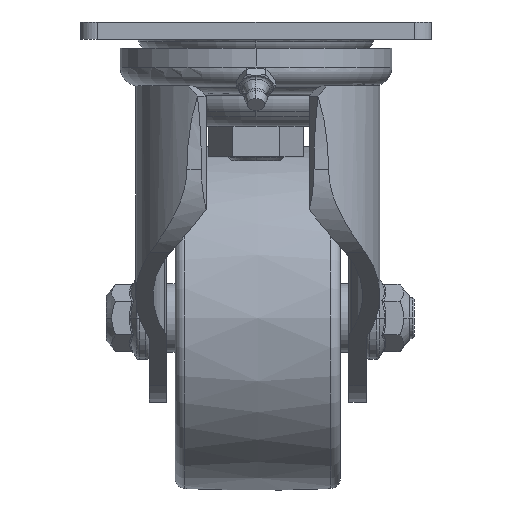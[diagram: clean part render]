
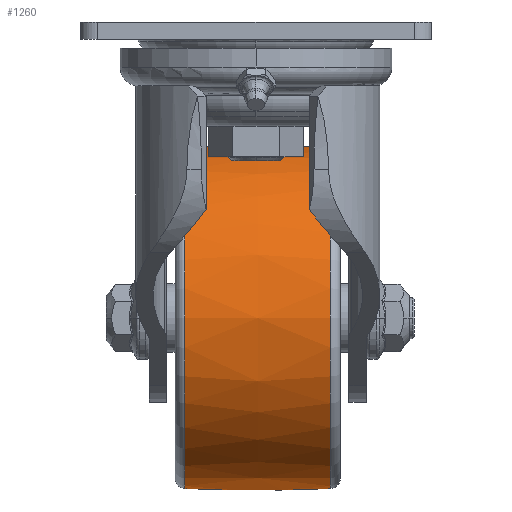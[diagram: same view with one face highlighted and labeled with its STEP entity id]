
A CAD part, left-side view. The second image highlights one B-rep face of the part: STEP entity #1260.
In plain terms, the highlighted free-form (B-spline) face has degree [2, 2] with [3, 9] control points.
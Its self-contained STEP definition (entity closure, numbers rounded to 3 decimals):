
#1187=CARTESIAN_POINT('',(143.289,-155.411,92.715));
#1188=CARTESIAN_POINT('',(143.289,-134.285,91.822));
#1189=CARTESIAN_POINT('',(143.289,-113.158,92.715));
#1190=CARTESIAN_POINT('',(192.842,-155.411,92.715));
#1191=CARTESIAN_POINT('',(193.735,-134.285,91.822));
#1192=CARTESIAN_POINT('',(192.842,-113.158,92.715));
#1193=CARTESIAN_POINT('',(192.842,-155.411,142.269));
#1194=CARTESIAN_POINT('',(193.735,-134.285,142.269));
#1195=CARTESIAN_POINT('',(192.842,-113.158,142.269));
#1196=CARTESIAN_POINT('',(192.842,-155.411,191.822));
#1197=CARTESIAN_POINT('',(193.735,-134.285,192.716));
#1198=CARTESIAN_POINT('',(192.842,-113.158,191.822));
#1199=CARTESIAN_POINT('',(143.289,-155.411,191.822));
#1200=CARTESIAN_POINT('',(143.289,-134.285,192.716));
#1201=CARTESIAN_POINT('',(143.289,-113.158,191.822));
#1202=CARTESIAN_POINT('',(93.735,-155.411,191.822));
#1203=CARTESIAN_POINT('',(92.842,-134.285,192.716));
#1204=CARTESIAN_POINT('',(93.735,-113.158,191.822));
#1205=CARTESIAN_POINT('',(93.735,-155.411,142.269));
#1206=CARTESIAN_POINT('',(92.842,-134.285,142.269));
#1207=CARTESIAN_POINT('',(93.735,-113.158,142.269));
#1208=CARTESIAN_POINT('',(93.735,-155.411,92.715));
#1209=CARTESIAN_POINT('',(92.842,-134.285,91.822));
#1210=CARTESIAN_POINT('',(93.735,-113.158,92.715));
#1211=CARTESIAN_POINT('',(143.289,-155.411,92.715));
#1212=CARTESIAN_POINT('',(143.289,-134.285,91.822));
#1213=CARTESIAN_POINT('',(143.289,-113.158,92.715));
#1221=(BOUNDED_SURFACE()B_SPLINE_SURFACE(2,2,((#1187,#1190,#1193,#1196,#1199,#1202,#1205,#1208,#1211),(#1188,#1191,#1194,#1197,#1200,#1203,#1206,#1209,#1212),(#1189,#1192,#1195,#1198,#1201,#1204,#1207,#1210,#1213)),.UNSPECIFIED.,.F.,.T.,.U.)B_SPLINE_SURFACE_WITH_KNOTS((3,3),(3,2,2,2,3),(-0.042,0.042),(0.0,1.571,3.142,4.712,6.283),.UNSPECIFIED.)GEOMETRIC_REPRESENTATION_ITEM()RATIONAL_B_SPLINE_SURFACE(((1.0,0.707,1.0,0.707,1.0,0.707,1.0,0.707,1.0),(0.999,0.706,0.999,0.706,0.999,0.706,0.999,0.706,0.999),(1.0,0.707,1.0,0.707,1.0,0.707,1.0,0.707,1.0)))REPRESENTATION_ITEM('')SURFACE());
#1222=CARTESIAN_POINT('',(143.289,-113.158,191.822));
#1223=VERTEX_POINT('',#1222);
#1224=CARTESIAN_POINT('',(143.289,-155.411,191.822));
#1225=VERTEX_POINT('',#1224);
#1226=CARTESIAN_POINT('',(143.289,-134.285,-307.731));
#1227=DIRECTION('',(1.0,0.0,0.0));
#1228=DIRECTION('',(0.0,0.0,1.0));
#1229=AXIS2_PLACEMENT_3D('',#1226,#1227,#1228);
#1230=CIRCLE('',#1229,500.0);
#1231=EDGE_CURVE('',#1223,#1225,#1230,.T.);
#1232=ORIENTED_EDGE('',*,*,#1231,.F.);
#1233=CARTESIAN_POINT('',(143.289,-113.158,92.715));
#1234=VERTEX_POINT('',#1233);
#1235=CARTESIAN_POINT('',(143.289,-113.158,142.269));
#1236=DIRECTION('',(0.0,1.0,0.0));
#1237=DIRECTION('',(0.0,0.0,1.0));
#1238=AXIS2_PLACEMENT_3D('',#1235,#1236,#1237);
#1239=CIRCLE('',#1238,49.553);
#1240=EDGE_CURVE('',#1234,#1223,#1239,.T.);
#1241=ORIENTED_EDGE('',*,*,#1240,.F.);
#1242=CARTESIAN_POINT('',(143.289,-155.411,92.715));
#1243=VERTEX_POINT('',#1242);
#1244=CARTESIAN_POINT('',(143.289,-134.285,592.269));
#1245=DIRECTION('',(-1.0,0.0,0.0));
#1246=DIRECTION('',(0.0,0.0,-1.0));
#1247=AXIS2_PLACEMENT_3D('',#1244,#1245,#1246);
#1248=CIRCLE('',#1247,500.0);
#1249=EDGE_CURVE('',#1234,#1243,#1248,.T.);
#1250=ORIENTED_EDGE('',*,*,#1249,.T.);
#1251=CARTESIAN_POINT('',(143.289,-155.411,142.269));
#1252=DIRECTION('',(0.0,1.0,0.0));
#1253=DIRECTION('',(0.0,0.0,1.0));
#1254=AXIS2_PLACEMENT_3D('',#1251,#1252,#1253);
#1255=CIRCLE('',#1254,49.553);
#1256=EDGE_CURVE('',#1243,#1225,#1255,.T.);
#1257=ORIENTED_EDGE('',*,*,#1256,.T.);
#1258=EDGE_LOOP('',(#1232,#1241,#1250,#1257));
#1259=FACE_OUTER_BOUND('',#1258,.T.);
#1260=ADVANCED_FACE('',(#1259),#1221,.T.);
